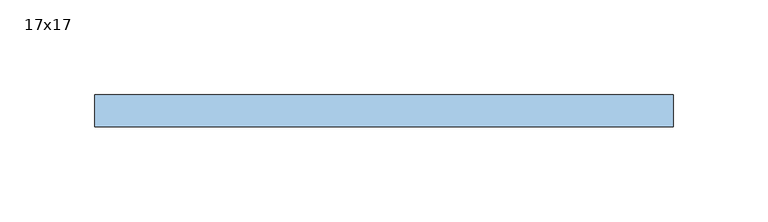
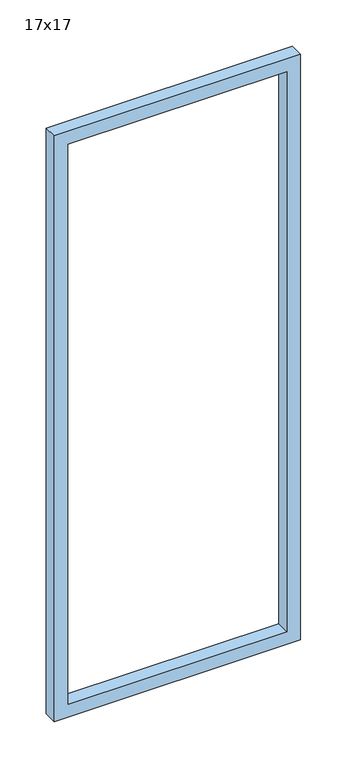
"""IFC4 building model written with IfcOpenShell, lengths in millimetres: window geometry, NLRS_30_WIN_glaslat-raam_sh_gen_TOBA-JM : 17x17."""

from ifc_helpers import new_model, si_unit, frame, origin, place, context, project, spatial, polyline, outline, extrude, source, transform, mapped, element, save


def window_17x17_9f9c80e4(model_context):
    return source(origin(), model_context, "Body", "SweptSolid", [
        extrude(outline(polyline([(836.0, 153.0), (836.0, -153.0), (67.0, -153.0), (67.0, 153.0), (836.0, 153.0)]), holes=[polyline([(84.0, 136.0), (84.0, -136.0), (819.0, -136.0), (819.0, 136.0), (84.0, 136.0)])]), frame((0.0, 45.0, 0.0), z_axis=(0.0, 1.0, 0.0), x_axis=(0.0, 0.0, 1.0)), (0.0, 0.0, 1.0), 17.0),
    ])


if __name__ == "__main__":
    model = new_model("IFC4")
    model_context = context("Model", 3, world=origin())
    ifc_project = project(units=[si_unit("LENGTHUNIT", "METRE", prefix="MILLI")], contexts=[model_context])
    site = spatial("IfcSite", under=ifc_project)
    building = spatial("IfcBuilding", under=site)
    placement = place(None, origin())
    window_17x17_shape = window_17x17_9f9c80e4(model_context)
    element("IfcWindow", 1, ObjectType="NLRS_30_WIN_glaslat-raam_sh_gen_TOBA-JM : 17x17", at=placement, inside=building, context=model_context, shape_type="MappedRepresentation", body=[
        mapped(window_17x17_shape, transform((0.0, 0.0, 0.0), x_axis=(1.0, 0.0, 0.0), y_axis=(0.0, 1.0, 0.0), z_axis=(0.0, 0.0, 1.0))),
    ])
    save(model, "model.ifc")
